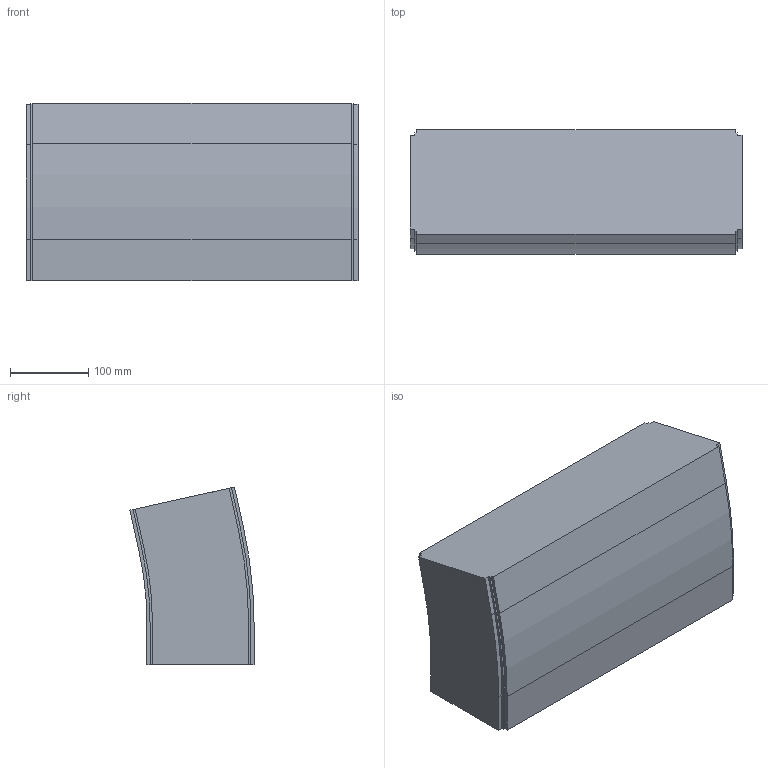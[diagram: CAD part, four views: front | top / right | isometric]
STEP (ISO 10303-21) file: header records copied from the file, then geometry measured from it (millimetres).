
FILE_DESCRIPTION (( 'STEP AP214' ), '1' );
FILE_NAME ('FS-MTC2-150-INOX verticaalbocht.420 12,5°.STEP', '2017-02-08T12:41:47', ( '' ), ( '' ), 'SwSTEP 2.0', 'SolidWorks 2016', '' );
FILE_SCHEMA (( 'AUTOMOTIVE_DESIGN' ));
Length unit declared in the file: millimetre
Products named in the file (1): FS-MTC2-150-INOX verticaalbocht.420 12,5°
Bounding box: 423 x 158.1 x 226.75 mm (x, y, z)
Volume: 12317205.7 mm3; surface area: 354628.4 mm2
Topology: 1 solids, 1 shells, 42 faces, 120 edges, 80 vertices
Faces by surface type: plane 32, cylinder 10
Entity records: 1398 total; most frequent: CARTESIAN_POINT 243, ORIENTED_EDGE 240, DIRECTION 226, EDGE_CURVE 120, LINE 100, VECTOR 100, VERTEX_POINT 80, AXIS2_PLACEMENT_3D 63
